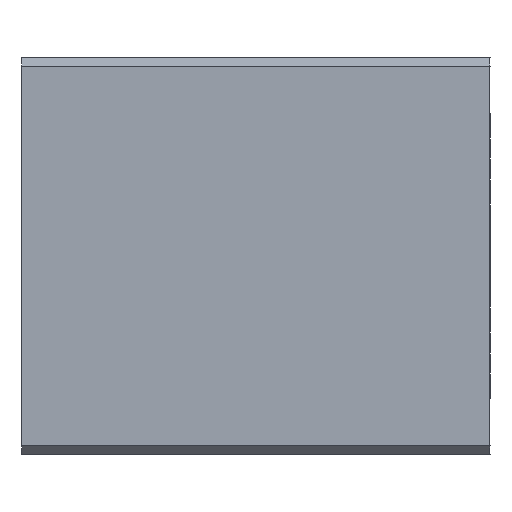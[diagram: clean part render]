
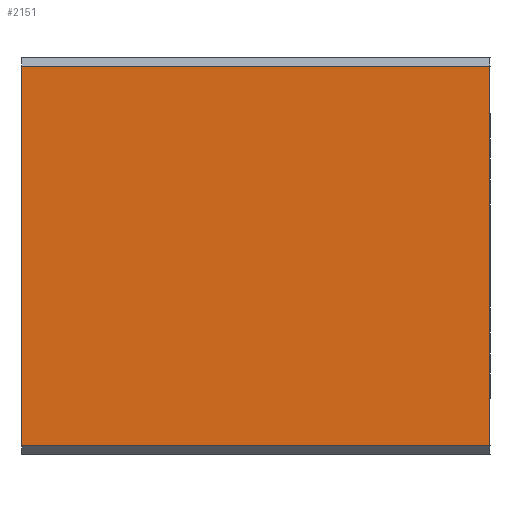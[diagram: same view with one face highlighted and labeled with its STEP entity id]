
A CAD part, front view. The second image highlights one B-rep face of the part: STEP entity #2151.
In plain terms, the highlighted planar face has unit normal (0, -1, 0).
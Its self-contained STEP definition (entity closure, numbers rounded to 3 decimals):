
#344 = PLANE ( 'NONE',  #6220 ) ;
#363 = CARTESIAN_POINT ( 'NONE',  ( 53., -22.5, 22.5 ) ) ;
#364 = DIRECTION ( 'NONE',  ( 0., 1., 0. ) ) ;
#365 = DIRECTION ( 'NONE',  ( 0., 0., 1. ) ) ;
#772 = ORIENTED_EDGE ( 'NONE', *, *, #1625, .T. ) ;
#891 = ORIENTED_EDGE ( 'NONE', *, *, #1508, .F. ) ;
#1042 = ORIENTED_EDGE ( 'NONE', *, *, #1733, .T. ) ;
#1092 = ORIENTED_EDGE ( 'NONE', *, *, #1342, .T. ) ;
#1285 = CARTESIAN_POINT ( 'NONE',  ( 53., -22.5, 22.5 ) ) ;
#1303 = DIRECTION ( 'NONE',  ( -1., 0., 0. ) ) ;
#1342 = EDGE_CURVE ( 'NONE', #4557, #4582, #3864, .T. ) ;
#1466 = DIRECTION ( 'NONE',  ( 0., 0., -1. ) ) ;
#1508 = EDGE_CURVE ( 'NONE', #4557, #4578, #3973, .T. ) ;
#1535 = CARTESIAN_POINT ( 'NONE',  ( 53., -22.5, 21.5 ) ) ;
#1625 = EDGE_CURVE ( 'NONE', #4505, #4578, #4072, .T. ) ;
#1733 = EDGE_CURVE ( 'NONE', #4582, #4505, #4178, .T. ) ;
#2151 = ADVANCED_FACE ( 'NONE', ( #5623 ), #344, .F. ) ;
#2263 = CARTESIAN_POINT ( 'NONE',  ( 0., -22.5, -21.5 ) ) ;
#2315 = CARTESIAN_POINT ( 'NONE',  ( 53., -22.5, 21.5 ) ) ;
#2336 = CARTESIAN_POINT ( 'NONE',  ( 53., -22.5, -21.5 ) ) ;
#2340 = CARTESIAN_POINT ( 'NONE',  ( 0., -22.5, 21.5 ) ) ;
#3155 = EDGE_LOOP ( 'NONE', ( #1042, #772, #891, #1092 ) ) ;
#3864 = LINE ( 'NONE', #1535, #3870 ) ;
#3870 = VECTOR ( 'NONE', #1303, 1000. ) ;
#3973 = LINE ( 'NONE', #1285, #3976 ) ;
#3976 = VECTOR ( 'NONE', #1466, 1000. ) ;
#4072 = LINE ( 'NONE', #7196, #4075 ) ;
#4075 = VECTOR ( 'NONE', #7199, 1000. ) ;
#4178 = LINE ( 'NONE', #6993, #4180 ) ;
#4180 = VECTOR ( 'NONE', #7089, 1000. ) ;
#4505 = VERTEX_POINT ( 'NONE', #2263 ) ;
#4557 = VERTEX_POINT ( 'NONE', #2315 ) ;
#4578 = VERTEX_POINT ( 'NONE', #2336 ) ;
#4582 = VERTEX_POINT ( 'NONE', #2340 ) ;
#5623 = FACE_OUTER_BOUND ( 'NONE', #3155, .T. ) ;
#6220 = AXIS2_PLACEMENT_3D ( 'NONE', #363, #364, #365 ) ;
#6993 = CARTESIAN_POINT ( 'NONE',  ( 0., -22.5, 22.5 ) ) ;
#7089 = DIRECTION ( 'NONE',  ( 0., 0., -1. ) ) ;
#7196 = CARTESIAN_POINT ( 'NONE',  ( 53., -22.5, -21.5 ) ) ;
#7199 = DIRECTION ( 'NONE',  ( 1., 0., 0. ) ) ;
